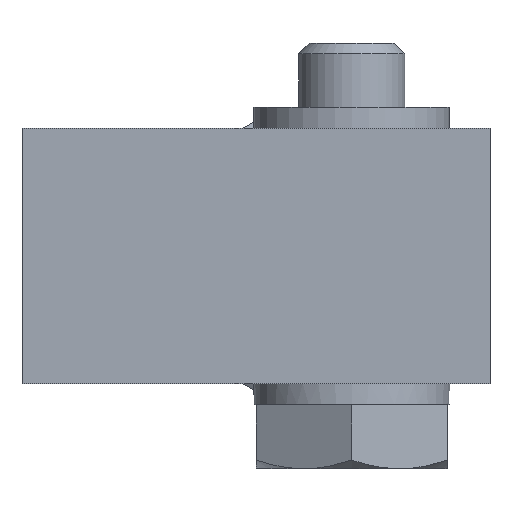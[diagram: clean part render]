
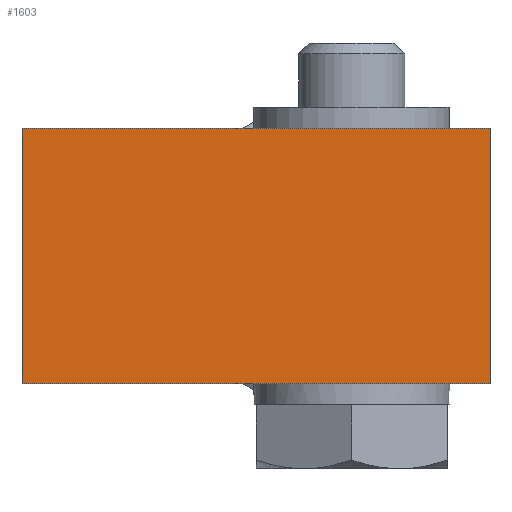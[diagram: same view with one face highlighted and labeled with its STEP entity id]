
A CAD part, front view. The second image highlights one B-rep face of the part: STEP entity #1603.
In plain terms, the highlighted planar face has unit normal (0, -1, 0).
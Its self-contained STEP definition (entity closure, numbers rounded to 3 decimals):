
#258=FACE_OUTER_BOUND('',#386,.T.);
#386=EDGE_LOOP('',(#1278,#1279,#1280,#1281));
#540=LINE('',#2675,#608);
#543=LINE('',#2680,#611);
#546=LINE('',#2685,#614);
#547=LINE('',#2687,#615);
#608=VECTOR('',#2143,22.);
#611=VECTOR('',#2148,12.);
#614=VECTOR('',#2153,12.);
#615=VECTOR('',#2156,22.);
#726=VERTEX_POINT('',#2673);
#727=VERTEX_POINT('',#2674);
#728=VERTEX_POINT('',#2679);
#729=VERTEX_POINT('',#2683);
#912=EDGE_CURVE('',#726,#727,#540,.T.);
#915=EDGE_CURVE('',#728,#727,#543,.T.);
#918=EDGE_CURVE('',#726,#729,#546,.T.);
#919=EDGE_CURVE('',#728,#729,#547,.T.);
#1278=ORIENTED_EDGE('',*,*,#918,.T.);
#1279=ORIENTED_EDGE('',*,*,#919,.F.);
#1280=ORIENTED_EDGE('',*,*,#915,.T.);
#1281=ORIENTED_EDGE('',*,*,#912,.F.);
#1431=PLANE('',#1771);
#1603=ADVANCED_FACE('',(#258),#1431,.T.);
#1771=AXIS2_PLACEMENT_3D('',#2686,#2154,#2155);
#2143=DIRECTION('',(-1.,0.,0.));
#2148=DIRECTION('',(0.,0.,-1.));
#2153=DIRECTION('',(0.,0.,1.));
#2154=DIRECTION('center_axis',(0.,-1.,0.));
#2155=DIRECTION('ref_axis',(1.,0.,0.));
#2156=DIRECTION('',(1.,0.,0.));
#2673=CARTESIAN_POINT('',(11.,-11.,-6.));
#2674=CARTESIAN_POINT('',(-11.,-11.,-6.));
#2675=CARTESIAN_POINT('',(11.,-11.,-6.));
#2679=CARTESIAN_POINT('',(-11.,-11.,6.));
#2680=CARTESIAN_POINT('',(-11.,-11.,0.));
#2683=CARTESIAN_POINT('',(11.,-11.,6.));
#2685=CARTESIAN_POINT('',(11.,-11.,0.));
#2686=CARTESIAN_POINT('Origin',(-11.,-11.,0.));
#2687=CARTESIAN_POINT('',(11.,-11.,6.));
